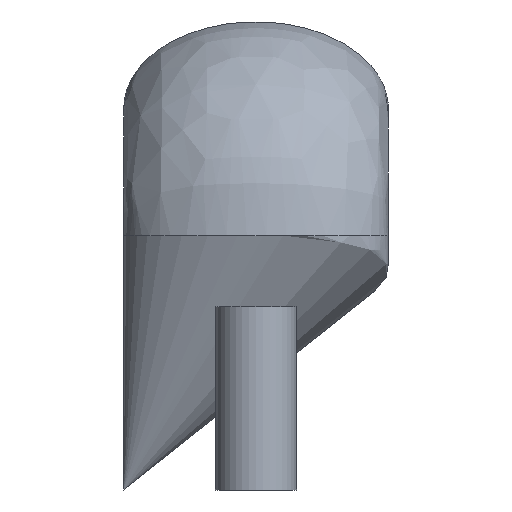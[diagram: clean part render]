
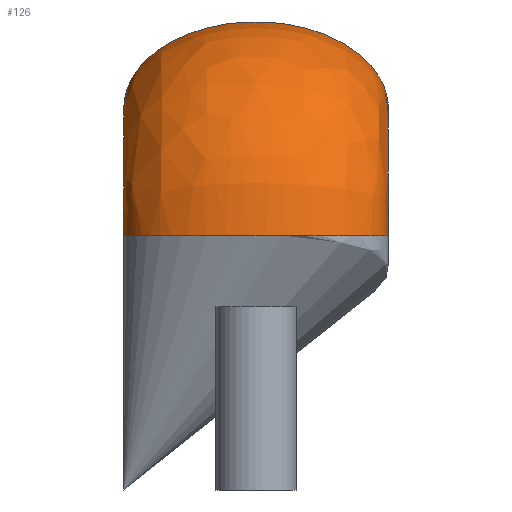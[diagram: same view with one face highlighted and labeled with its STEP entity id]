
A CAD part, left-side view. The second image highlights one B-rep face of the part: STEP entity #126.
In plain terms, the highlighted free-form (B-spline) face has degree [2, 2] with [9, 3] control points.
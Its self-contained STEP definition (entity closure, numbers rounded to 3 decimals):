
#41=CARTESIAN_POINT('',(0.,13.,25.));
#42=VERTEX_POINT('',#41);
#58=CARTESIAN_POINT('',(0.,13.,25.));
#59=CARTESIAN_POINT('',(-8.5,13.,25.));
#60=CARTESIAN_POINT('',(-8.5,0.,25.));
#61=CARTESIAN_POINT('',(-8.5,-13.,25.));
#62=CARTESIAN_POINT('',(0.,-13.,25.));
#63=CARTESIAN_POINT('',(8.5,-13.,25.));
#64=CARTESIAN_POINT('',(8.5,0.,25.));
#65=CARTESIAN_POINT('',(8.5,13.,25.));
#66=CARTESIAN_POINT('',(0.,13.,25.));
#67=(BOUNDED_CURVE()B_SPLINE_CURVE(2,(#58,#59,#60,#61,#62,#63,#64,#65,#66),.UNSPECIFIED.,.T.,.U.)B_SPLINE_CURVE_WITH_KNOTS((3,2,2,2,3),(0.,0.25,0.5,0.75,1.),.UNSPECIFIED.)CURVE()GEOMETRIC_REPRESENTATION_ITEM()RATIONAL_B_SPLINE_CURVE((1.,0.707,1.,0.707,1.,0.707,1.,0.707,1.))REPRESENTATION_ITEM(''));
#68=EDGE_CURVE('',#42,#42,#67,.T.);
#73=CARTESIAN_POINT('',(0.,13.,25.));
#74=CARTESIAN_POINT('',(0.,13.,37.5));
#75=CARTESIAN_POINT('',(12.5,13.,37.5));
#76=CARTESIAN_POINT('',(-8.5,13.,25.));
#77=CARTESIAN_POINT('',(-8.5,13.,46.));
#78=CARTESIAN_POINT('',(12.5,13.,46.));
#79=CARTESIAN_POINT('',(-8.5,0.,25.));
#80=CARTESIAN_POINT('',(-8.5,0.,46.));
#81=CARTESIAN_POINT('',(12.5,0.,46.));
#82=CARTESIAN_POINT('',(-8.5,-13.,25.));
#83=CARTESIAN_POINT('',(-8.5,-13.,46.));
#84=CARTESIAN_POINT('',(12.5,-13.,46.));
#85=CARTESIAN_POINT('',(0.,-13.,25.));
#86=CARTESIAN_POINT('',(0.,-13.,37.5));
#87=CARTESIAN_POINT('',(12.5,-13.,37.5));
#88=CARTESIAN_POINT('',(8.5,-13.,25.));
#89=CARTESIAN_POINT('',(8.5,-13.,29.));
#90=CARTESIAN_POINT('',(12.5,-13.,29.));
#91=CARTESIAN_POINT('',(8.5,0.,25.));
#92=CARTESIAN_POINT('',(8.5,0.,29.));
#93=CARTESIAN_POINT('',(12.5,0.,29.));
#94=CARTESIAN_POINT('',(8.5,13.,25.));
#95=CARTESIAN_POINT('',(8.5,13.,29.));
#96=CARTESIAN_POINT('',(12.5,13.,29.));
#97=CARTESIAN_POINT('',(0.,13.,25.));
#98=CARTESIAN_POINT('',(0.,13.,37.5));
#99=CARTESIAN_POINT('',(12.5,13.,37.5));
#100=(BOUNDED_SURFACE()B_SPLINE_SURFACE(2,2,((#73,#74,#75),(#76,#77,#78),(#79,#80,#81),(#82,#83,#84),(#85,#86,#87),(#88,#89,#90),(#91,#92,#93),(#94,#95,#96),(#97,#98,#99)),.UNSPECIFIED.,.T.,.F.,.U.)B_SPLINE_SURFACE_WITH_KNOTS((3,2,2,2,3),(3,3),(0.,0.25,0.5,0.75,1.),(0.,1.),.UNSPECIFIED.)GEOMETRIC_REPRESENTATION_ITEM()RATIONAL_B_SPLINE_SURFACE(((1.,0.707,1.),(0.707,0.5,0.707),(1.,0.707,1.),(0.707,0.5,0.707),(1.,0.707,1.),(0.707,0.5,0.707),(1.,0.707,1.),(0.707,0.5,0.707),(1.,0.707,1.)))REPRESENTATION_ITEM('')SURFACE());
#101=CARTESIAN_POINT('',(12.5,13.,37.5));
#102=VERTEX_POINT('',#101);
#103=CARTESIAN_POINT('',(12.5,13.,25.));
#104=DIRECTION('',(-1.,0.,0.));
#105=DIRECTION('',(0.,1.,0.));
#106=AXIS2_PLACEMENT_3D('',#103,#105,#104);
#107=CIRCLE('',#106,12.5);
#108=EDGE_CURVE('',#42,#102,#107,.T.);
#109=ORIENTED_EDGE('E5',*,*,#108,.F.);
#110=ORIENTED_EDGE('E5',*,*,#68,.T.);
#111=ORIENTED_EDGE('E5',*,*,#108,.T.);
#112=CARTESIAN_POINT('',(12.5,13.,37.5));
#113=CARTESIAN_POINT('',(12.5,13.,46.));
#114=CARTESIAN_POINT('',(12.5,0.,46.));
#115=CARTESIAN_POINT('',(12.5,-13.,46.));
#116=CARTESIAN_POINT('',(12.5,-13.,37.5));
#117=CARTESIAN_POINT('',(12.5,-13.,29.));
#118=CARTESIAN_POINT('',(12.5,0.,29.));
#119=CARTESIAN_POINT('',(12.5,13.,29.));
#120=CARTESIAN_POINT('',(12.5,13.,37.5));
#121=(BOUNDED_CURVE()B_SPLINE_CURVE(2,(#112,#113,#114,#115,#116,#117,#118,#119,#120),.UNSPECIFIED.,.T.,.U.)B_SPLINE_CURVE_WITH_KNOTS((3,2,2,2,3),(0.,0.25,0.5,0.75,1.),.UNSPECIFIED.)CURVE()GEOMETRIC_REPRESENTATION_ITEM()RATIONAL_B_SPLINE_CURVE((1.,0.707,1.,0.707,1.,0.707,1.,0.707,1.))REPRESENTATION_ITEM(''));
#122=EDGE_CURVE('',#102,#102,#121,.T.);
#123=ORIENTED_EDGE('E6',*,*,#122,.F.);
#124=EDGE_LOOP('',(#109,#110,#111,#123));
#125=FACE_OUTER_BOUND('',#124,.T.);
#126=ADVANCED_FACE('F4',(#125),#100,.T.);
